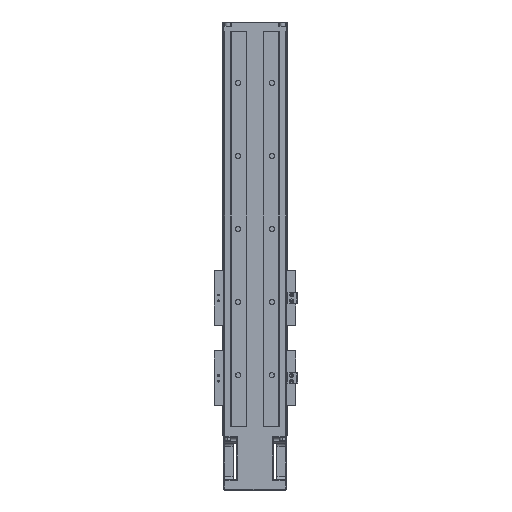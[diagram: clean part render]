
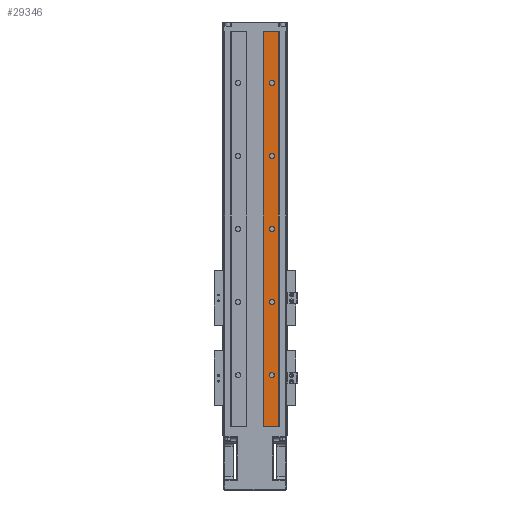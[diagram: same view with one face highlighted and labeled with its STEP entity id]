
A CAD part, front view. The second image highlights one B-rep face of the part: STEP entity #29346.
In plain terms, the highlighted planar face has unit normal (0, -1, 0).
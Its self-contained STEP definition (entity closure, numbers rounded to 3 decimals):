
#604 = DIRECTION ( 'NONE',  ( 0., 1., 0. ) ) ;
#1202 = CARTESIAN_POINT ( 'NONE',  ( 23., 0., 173.5 ) ) ;
#1631 = CIRCLE ( 'NONE', #44085, 3.5 ) ;
#2403 = FACE_BOUND ( 'NONE', #19816, .T. ) ;
#3075 = AXIS2_PLACEMENT_3D ( 'NONE', #47684, #604, #65222 ) ;
#3470 = DIRECTION ( 'NONE',  ( -1., 0., 0. ) ) ;
#5523 = DIRECTION ( 'NONE',  ( 0., 1., 0. ) ) ;
#6685 = VERTEX_POINT ( 'NONE', #60696 ) ;
#7348 = CARTESIAN_POINT ( 'NONE',  ( 23., 0., 470. ) ) ;
#7418 = EDGE_CURVE ( 'NONE', #38219, #64934, #29915, .T. ) ;
#7618 = EDGE_CURVE ( 'NONE', #15991, #64934, #8310, .T. ) ;
#7930 = DIRECTION ( 'NONE',  ( 0., 1., 0. ) ) ;
#8104 = FACE_BOUND ( 'NONE', #26760, .T. ) ;
#8310 = LINE ( 'NONE', #13634, #44574 ) ;
#9254 = PLANE ( 'NONE',  #74934 ) ;
#9346 = DIRECTION ( 'NONE',  ( 0., 0., 1. ) ) ;
#10630 = DIRECTION ( 'NONE',  ( 0., 1., 0. ) ) ;
#10993 = CARTESIAN_POINT ( 'NONE',  ( 23., 0., 473.5 ) ) ;
#11137 = AXIS2_PLACEMENT_3D ( 'NONE', #68438, #10630, #33745 ) ;
#12282 = EDGE_CURVE ( 'NONE', #61618, #23338, #32052, .T. ) ;
#13424 = CIRCLE ( 'NONE', #38862, 3.5 ) ;
#13613 = CARTESIAN_POINT ( 'NONE',  ( 23., 0., 470. ) ) ;
#13634 = CARTESIAN_POINT ( 'NONE',  ( -22.1, 0., 0. ) ) ;
#14914 = ORIENTED_EDGE ( 'NONE', *, *, #12282, .T. ) ;
#14952 = FACE_BOUND ( 'NONE', #61222, .T. ) ;
#15991 = VERTEX_POINT ( 'NONE', #50052 ) ;
#17670 = DIRECTION ( 'NONE',  ( 0., 0., -1. ) ) ;
#18875 = VECTOR ( 'NONE', #9346, 1000. ) ;
#19574 = VERTEX_POINT ( 'NONE', #10993 ) ;
#19816 = EDGE_LOOP ( 'NONE', ( #63235, #69490 ) ) ;
#20831 = CARTESIAN_POINT ( 'NONE',  ( 23., 0., 370. ) ) ;
#21066 = VERTEX_POINT ( 'NONE', #69498 ) ;
#23338 = VERTEX_POINT ( 'NONE', #62465 ) ;
#25098 = DIRECTION ( 'NONE',  ( 0., 0., -1. ) ) ;
#25101 = CARTESIAN_POINT ( 'NONE',  ( 23., 0., 170. ) ) ;
#26760 = EDGE_LOOP ( 'NONE', ( #63533, #33125 ) ) ;
#26997 = DIRECTION ( 'NONE',  ( 0., -1., 0. ) ) ;
#27072 = CARTESIAN_POINT ( 'NONE',  ( 23., 0., 73.5 ) ) ;
#27090 = LINE ( 'NONE', #67501, #18875 ) ;
#28440 = CARTESIAN_POINT ( 'NONE',  ( 11.5, 0., 0. ) ) ;
#28725 = VERTEX_POINT ( 'NONE', #68536 ) ;
#29245 = AXIS2_PLACEMENT_3D ( 'NONE', #20831, #48973, #49348 ) ;
#29346 = ADVANCED_FACE ( 'NONE', ( #8104, #14952, #38042, #72396, #2403, #31978 ), #9254, .T. ) ;
#29796 = AXIS2_PLACEMENT_3D ( 'NONE', #7348, #54055, #25098 ) ;
#29915 = LINE ( 'NONE', #42079, #43198 ) ;
#30352 = ORIENTED_EDGE ( 'NONE', *, *, #7618, .F. ) ;
#31034 = DIRECTION ( 'NONE',  ( -1., 0., 0. ) ) ;
#31489 = CARTESIAN_POINT ( 'NONE',  ( 23., 0., 370. ) ) ;
#31978 = FACE_OUTER_BOUND ( 'NONE', #43766, .T. ) ;
#32052 = CIRCLE ( 'NONE', #45583, 3.5 ) ;
#33125 = ORIENTED_EDGE ( 'NONE', *, *, #57789, .T. ) ;
#33745 = DIRECTION ( 'NONE',  ( 0., 0., -1. ) ) ;
#33981 = CARTESIAN_POINT ( 'NONE',  ( 23., 0., 70. ) ) ;
#35694 = DIRECTION ( 'NONE',  ( 0., 0., -1. ) ) ;
#35873 = CARTESIAN_POINT ( 'NONE',  ( 23., 0., 166.5 ) ) ;
#36485 = ORIENTED_EDGE ( 'NONE', *, *, #69552, .T. ) ;
#38042 = FACE_BOUND ( 'NONE', #63518, .T. ) ;
#38179 = CIRCLE ( 'NONE', #3075, 3.5 ) ;
#38205 = DIRECTION ( 'NONE',  ( 0., 0., -1. ) ) ;
#38219 = VERTEX_POINT ( 'NONE', #54939 ) ;
#38862 = AXIS2_PLACEMENT_3D ( 'NONE', #33981, #56820, #39657 ) ;
#39169 = DIRECTION ( 'NONE',  ( 0., 0., -1. ) ) ;
#39657 = DIRECTION ( 'NONE',  ( 0., 0., -1. ) ) ;
#41003 = AXIS2_PLACEMENT_3D ( 'NONE', #25101, #5523, #48322 ) ;
#41772 = DIRECTION ( 'NONE',  ( 0., 1., 0. ) ) ;
#42079 = CARTESIAN_POINT ( 'NONE',  ( 11.5, 0., 540. ) ) ;
#43064 = EDGE_LOOP ( 'NONE', ( #43635, #14914 ) ) ;
#43198 = VECTOR ( 'NONE', #53524, 1000. ) ;
#43635 = ORIENTED_EDGE ( 'NONE', *, *, #66843, .T. ) ;
#43766 = EDGE_LOOP ( 'NONE', ( #30352, #53749, #45559, #61910 ) ) ;
#43827 = CIRCLE ( 'NONE', #11137, 3.5 ) ;
#44085 = AXIS2_PLACEMENT_3D ( 'NONE', #13613, #60301, #38205 ) ;
#44356 = VERTEX_POINT ( 'NONE', #1202 ) ;
#44574 = VECTOR ( 'NONE', #31034, 1000. ) ;
#45159 = CARTESIAN_POINT ( 'NONE',  ( 32.5, 0., 540. ) ) ;
#45559 = ORIENTED_EDGE ( 'NONE', *, *, #66502, .T. ) ;
#45583 = AXIS2_PLACEMENT_3D ( 'NONE', #31489, #41772, #35694 ) ;
#47285 = DIRECTION ( 'NONE',  ( 0., 1., 0. ) ) ;
#47684 = CARTESIAN_POINT ( 'NONE',  ( 23., 0., 270. ) ) ;
#48322 = DIRECTION ( 'NONE',  ( 0., 0., -1. ) ) ;
#48573 = DIRECTION ( 'NONE',  ( 0., 0., -1. ) ) ;
#48973 = DIRECTION ( 'NONE',  ( 0., 1., 0. ) ) ;
#49348 = DIRECTION ( 'NONE',  ( 0., 0., -1. ) ) ;
#49395 = VERTEX_POINT ( 'NONE', #73761 ) ;
#50052 = CARTESIAN_POINT ( 'NONE',  ( 32.5, 0., 0. ) ) ;
#51223 = ORIENTED_EDGE ( 'NONE', *, *, #73699, .T. ) ;
#53524 = DIRECTION ( 'NONE',  ( 0., 0., -1. ) ) ;
#53749 = ORIENTED_EDGE ( 'NONE', *, *, #70626, .T. ) ;
#54055 = DIRECTION ( 'NONE',  ( 0., 1., 0. ) ) ;
#54118 = EDGE_CURVE ( 'NONE', #21066, #28725, #68683, .T. ) ;
#54218 = VERTEX_POINT ( 'NONE', #35873 ) ;
#54811 = CIRCLE ( 'NONE', #29245, 3.5 ) ;
#54939 = CARTESIAN_POINT ( 'NONE',  ( 11.5, 0., 540. ) ) ;
#55250 = ORIENTED_EDGE ( 'NONE', *, *, #54118, .T. ) ;
#55460 = EDGE_CURVE ( 'NONE', #19574, #49395, #66287, .T. ) ;
#55539 = CARTESIAN_POINT ( 'NONE',  ( -22.1, 0., 540. ) ) ;
#55713 = AXIS2_PLACEMENT_3D ( 'NONE', #59968, #7930, #48573 ) ;
#55978 = CARTESIAN_POINT ( 'NONE',  ( 43., 0., 540. ) ) ;
#55982 = VERTEX_POINT ( 'NONE', #27072 ) ;
#56820 = DIRECTION ( 'NONE',  ( 0., 1., 0. ) ) ;
#57789 = EDGE_CURVE ( 'NONE', #55982, #6685, #13424, .T. ) ;
#59968 = CARTESIAN_POINT ( 'NONE',  ( 23., 0., 170. ) ) ;
#60045 = AXIS2_PLACEMENT_3D ( 'NONE', #69832, #47285, #17670 ) ;
#60301 = DIRECTION ( 'NONE',  ( 0., 1., 0. ) ) ;
#60696 = CARTESIAN_POINT ( 'NONE',  ( 23., 0., 66.5 ) ) ;
#61222 = EDGE_LOOP ( 'NONE', ( #51223, #74295 ) ) ;
#61618 = VERTEX_POINT ( 'NONE', #64634 ) ;
#61725 = EDGE_CURVE ( 'NONE', #6685, #55982, #43827, .T. ) ;
#61766 = VERTEX_POINT ( 'NONE', #45159 ) ;
#61910 = ORIENTED_EDGE ( 'NONE', *, *, #7418, .T. ) ;
#62465 = CARTESIAN_POINT ( 'NONE',  ( 23., 0., 366.5 ) ) ;
#63235 = ORIENTED_EDGE ( 'NONE', *, *, #63560, .T. ) ;
#63518 = EDGE_LOOP ( 'NONE', ( #55250, #36485 ) ) ;
#63533 = ORIENTED_EDGE ( 'NONE', *, *, #61725, .T. ) ;
#63560 = EDGE_CURVE ( 'NONE', #49395, #19574, #1631, .T. ) ;
#64088 = CIRCLE ( 'NONE', #41003, 3.5 ) ;
#64634 = CARTESIAN_POINT ( 'NONE',  ( 23., 0., 373.5 ) ) ;
#64934 = VERTEX_POINT ( 'NONE', #28440 ) ;
#65222 = DIRECTION ( 'NONE',  ( 0., 0., -1. ) ) ;
#66287 = CIRCLE ( 'NONE', #29796, 3.5 ) ;
#66502 = EDGE_CURVE ( 'NONE', #61766, #38219, #67365, .T. ) ;
#66843 = EDGE_CURVE ( 'NONE', #23338, #61618, #54811, .T. ) ;
#67365 = LINE ( 'NONE', #55539, #70580 ) ;
#67501 = CARTESIAN_POINT ( 'NONE',  ( 32.5, 0., 540. ) ) ;
#68438 = CARTESIAN_POINT ( 'NONE',  ( 23., 0., 70. ) ) ;
#68536 = CARTESIAN_POINT ( 'NONE',  ( 23., 0., 273.5 ) ) ;
#68683 = CIRCLE ( 'NONE', #60045, 3.5 ) ;
#69490 = ORIENTED_EDGE ( 'NONE', *, *, #55460, .T. ) ;
#69498 = CARTESIAN_POINT ( 'NONE',  ( 23., 0., 266.5 ) ) ;
#69552 = EDGE_CURVE ( 'NONE', #28725, #21066, #38179, .T. ) ;
#69832 = CARTESIAN_POINT ( 'NONE',  ( 23., 0., 270. ) ) ;
#70580 = VECTOR ( 'NONE', #3470, 1000. ) ;
#70626 = EDGE_CURVE ( 'NONE', #15991, #61766, #27090, .T. ) ;
#72396 = FACE_BOUND ( 'NONE', #43064, .T. ) ;
#72462 = EDGE_CURVE ( 'NONE', #44356, #54218, #72766, .T. ) ;
#72766 = CIRCLE ( 'NONE', #55713, 3.5 ) ;
#73699 = EDGE_CURVE ( 'NONE', #54218, #44356, #64088, .T. ) ;
#73761 = CARTESIAN_POINT ( 'NONE',  ( 23., 0., 466.5 ) ) ;
#74295 = ORIENTED_EDGE ( 'NONE', *, *, #72462, .T. ) ;
#74934 = AXIS2_PLACEMENT_3D ( 'NONE', #55978, #26997, #39169 ) ;
